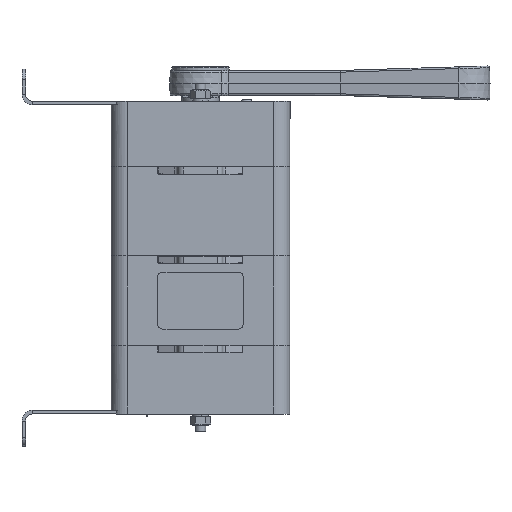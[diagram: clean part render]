
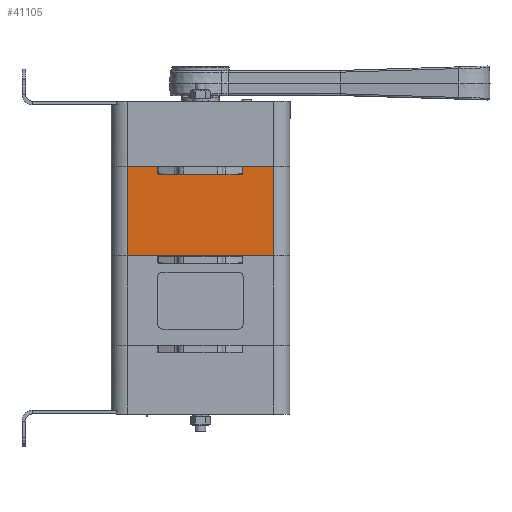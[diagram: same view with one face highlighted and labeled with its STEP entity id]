
A CAD part, front view. The second image highlights one B-rep face of the part: STEP entity #41105.
In plain terms, the highlighted planar face has unit normal (0, -1, 0).
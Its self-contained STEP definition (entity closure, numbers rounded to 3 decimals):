
#639 = CARTESIAN_POINT ( 'NONE',  ( -41., -48., 3. ) ) ;
#1661 = CARTESIAN_POINT ( 'NONE',  ( -41., -48., 3. ) ) ;
#3157 = CARTESIAN_POINT ( 'NONE',  ( -41., -48., -22. ) ) ;
#4344 = VECTOR ( 'NONE', #38182, 1000. ) ;
#4752 = VERTEX_POINT ( 'NONE', #12390 ) ;
#5521 = VERTEX_POINT ( 'NONE', #19601 ) ;
#6278 = DIRECTION ( 'NONE',  ( 0., 0., -1. ) ) ;
#6707 = VERTEX_POINT ( 'NONE', #13428 ) ;
#7756 = VERTEX_POINT ( 'NONE', #38402 ) ;
#9212 = ORIENTED_EDGE ( 'NONE', *, *, #13689, .T. ) ;
#9886 = DIRECTION ( 'NONE',  ( 1., 0., 0. ) ) ;
#10105 = DIRECTION ( 'NONE',  ( 0., 0., 1. ) ) ;
#10309 = LINE ( 'NONE', #3157, #29802 ) ;
#11167 = EDGE_CURVE ( 'NONE', #32187, #6707, #21820, .T. ) ;
#11368 = EDGE_CURVE ( 'NONE', #23065, #4752, #11815, .T. ) ;
#11399 = VERTEX_POINT ( 'NONE', #38595 ) ;
#11518 = CARTESIAN_POINT ( 'NONE',  ( -23.8, -48., 24.2 ) ) ;
#11815 = LINE ( 'NONE', #35503, #30309 ) ;
#12390 = CARTESIAN_POINT ( 'NONE',  ( 23.8, -48., 24.2 ) ) ;
#13336 = ORIENTED_EDGE ( 'NONE', *, *, #11167, .F. ) ;
#13428 = CARTESIAN_POINT ( 'NONE',  ( 41., -48., 28.2 ) ) ;
#13689 = EDGE_CURVE ( 'NONE', #32187, #4752, #40616, .T. ) ;
#14408 = ORIENTED_EDGE ( 'NONE', *, *, #18380, .F. ) ;
#14427 = CARTESIAN_POINT ( 'NONE',  ( 41., -48., 3. ) ) ;
#15417 = LINE ( 'NONE', #41344, #31415 ) ;
#16130 = DIRECTION ( 'NONE',  ( -1., 0., 0. ) ) ;
#16324 = LINE ( 'NONE', #31819, #20809 ) ;
#17625 = DIRECTION ( 'NONE',  ( 0., 0., -1. ) ) ;
#18056 = ORIENTED_EDGE ( 'NONE', *, *, #37147, .F. ) ;
#18269 = DIRECTION ( 'NONE',  ( 0., 0., -1. ) ) ;
#18380 = EDGE_CURVE ( 'NONE', #38443, #7756, #10309, .T. ) ;
#18939 = DIRECTION ( 'NONE',  ( 1., 0., 0. ) ) ;
#19601 = CARTESIAN_POINT ( 'NONE',  ( -41., -48., 28.2 ) ) ;
#19731 = PLANE ( 'NONE',  #32554 ) ;
#20053 = VECTOR ( 'NONE', #17625, 1000. ) ;
#20809 = VECTOR ( 'NONE', #18939, 1000. ) ;
#21820 = LINE ( 'NONE', #21932, #4344 ) ;
#21932 = CARTESIAN_POINT ( 'NONE',  ( 23.8, -48., 28.2 ) ) ;
#23065 = VERTEX_POINT ( 'NONE', #11518 ) ;
#26271 = ORIENTED_EDGE ( 'NONE', *, *, #11368, .F. ) ;
#27134 = VECTOR ( 'NONE', #27345, 1000. ) ;
#27299 = FACE_OUTER_BOUND ( 'NONE', #41121, .T. ) ;
#27345 = DIRECTION ( 'NONE',  ( 0., 0., -1. ) ) ;
#29380 = DIRECTION ( 'NONE',  ( 0., 1., 0. ) ) ;
#29540 = ORIENTED_EDGE ( 'NONE', *, *, #34034, .F. ) ;
#29802 = VECTOR ( 'NONE', #16130, 1000. ) ;
#30309 = VECTOR ( 'NONE', #9886, 1000. ) ;
#30520 = ORIENTED_EDGE ( 'NONE', *, *, #35842, .T. ) ;
#31415 = VECTOR ( 'NONE', #6278, 1000. ) ;
#31626 = LINE ( 'NONE', #1661, #27134 ) ;
#31819 = CARTESIAN_POINT ( 'NONE',  ( -41., -48., 28.2 ) ) ;
#32098 = VECTOR ( 'NONE', #18269, 1000. ) ;
#32187 = VERTEX_POINT ( 'NONE', #33217 ) ;
#32549 = LINE ( 'NONE', #14427, #20053 ) ;
#32554 = AXIS2_PLACEMENT_3D ( 'NONE', #639, #29380, #10105 ) ;
#33217 = CARTESIAN_POINT ( 'NONE',  ( 23.8, -48., 28.2 ) ) ;
#34034 = EDGE_CURVE ( 'NONE', #5521, #11399, #16324, .T. ) ;
#34804 = ORIENTED_EDGE ( 'NONE', *, *, #38202, .F. ) ;
#35503 = CARTESIAN_POINT ( 'NONE',  ( -41., -48., 24.2 ) ) ;
#35842 = EDGE_CURVE ( 'NONE', #5521, #7756, #31626, .T. ) ;
#36050 = CARTESIAN_POINT ( 'NONE',  ( 41., -48., -22. ) ) ;
#37147 = EDGE_CURVE ( 'NONE', #6707, #38443, #32549, .T. ) ;
#37501 = CARTESIAN_POINT ( 'NONE',  ( 23.8, -48., 28.2 ) ) ;
#38182 = DIRECTION ( 'NONE',  ( 1., 0., 0. ) ) ;
#38202 = EDGE_CURVE ( 'NONE', #11399, #23065, #15417, .T. ) ;
#38402 = CARTESIAN_POINT ( 'NONE',  ( -41., -48., -22. ) ) ;
#38443 = VERTEX_POINT ( 'NONE', #36050 ) ;
#38595 = CARTESIAN_POINT ( 'NONE',  ( -23.8, -48., 28.2 ) ) ;
#40616 = LINE ( 'NONE', #37501, #32098 ) ;
#41105 = ADVANCED_FACE ( 'NONE', ( #27299 ), #19731, .F. ) ;
#41121 = EDGE_LOOP ( 'NONE', ( #30520, #14408, #18056, #13336, #9212, #26271, #34804, #29540 ) ) ;
#41344 = CARTESIAN_POINT ( 'NONE',  ( -23.8, -48., 28.2 ) ) ;
